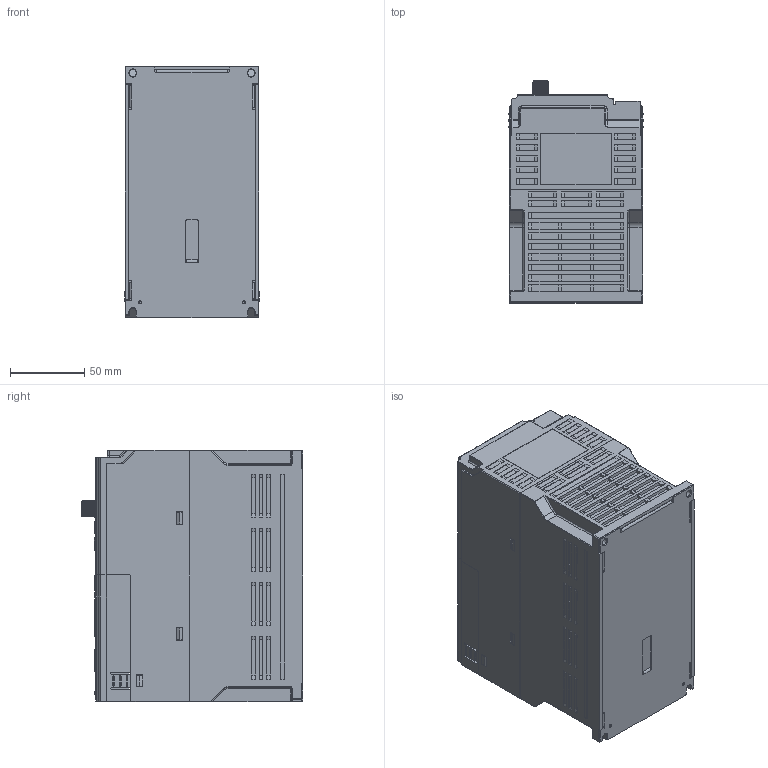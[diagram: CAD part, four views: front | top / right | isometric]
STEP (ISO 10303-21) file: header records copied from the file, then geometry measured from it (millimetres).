
FILE_DESCRIPTION(/* description */ (''),/* implementation_level */ '2;1');
FILE_NAME(/* name */ 'VH1-S2-20240816',/* time_stamp */ '2024-08-16T16:13:56+08:00',/* author */ (''),/* organization */ (''),/* preprocessor_version */ 'ST-DEVELOPER v19.2',/* originating_system */ 'Rhino 8.2',/* authorisation */ '');
FILE_SCHEMA (('CONFIG_CONTROL_DESIGN'));
Products named in the file (1): Document
Bounding box: 90.6 x 149.61 x 170 mm (x, y, z)
Volume: 2022700.5 mm3; surface area: 213644.9 mm2
Topology: 184 solids, 184 shells, 7612 faces, 20011 edges, 12994 vertices
Faces by surface type: plane 5477, cylinder 1464, bspline 671
Entity records: 241745 total; most frequent: CARTESIAN_POINT 95158, ORIENTED_EDGE 39848, EDGE_CURVE 19924, B_SPLINE_CURVE_WITH_KNOTS 17426, VERTEX_POINT 12994, DIRECTION 11418, AXIS2_PLACEMENT_3D 9150, EDGE_LOOP 8087
